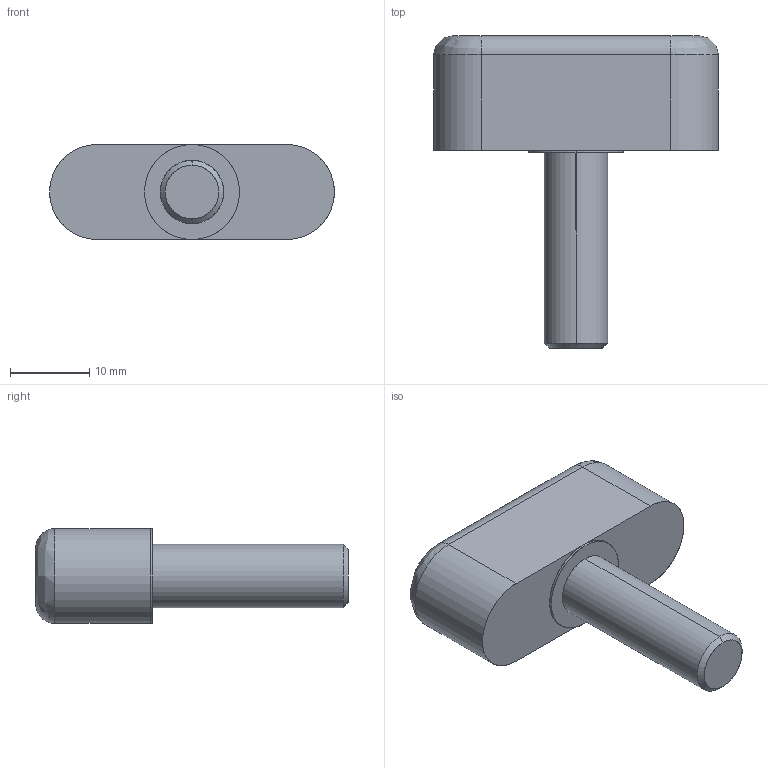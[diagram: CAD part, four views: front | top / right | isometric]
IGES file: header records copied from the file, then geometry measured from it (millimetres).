
Start section: SolidWorks IGES file using analytic representation for surfaces
Global section: file name: C:\Documents and Settings\IanO.IANOHOME\My Documents\Wix and Auto CAD Work\CAD Models\Parametric Models\Wix Models\3738\3738_IGES\3738.W087.igs; native system: SolidWorks 2009; preprocessor: SolidWorks 2009; author: IanO; date: 091209.215814; units: millimetre
Bounding box: 36 x 39.5 x 12 mm (x, y, z)
Surface area: 2576.5 mm2 (no closed solid volume)
Topology: 0 solids, 0 shells, 19 faces, 256 edges, 256 vertices
Faces by surface type: revolution 10, bspline 9
